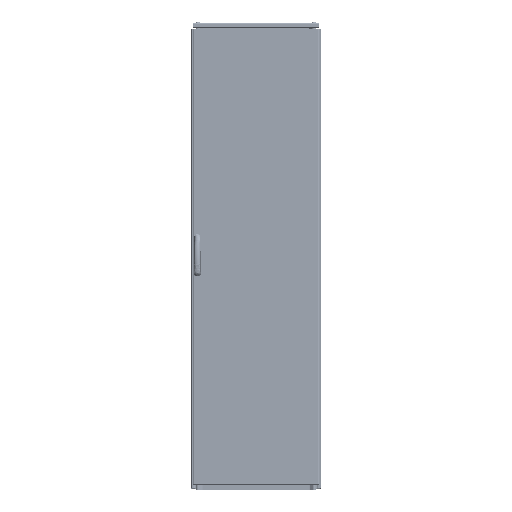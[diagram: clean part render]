
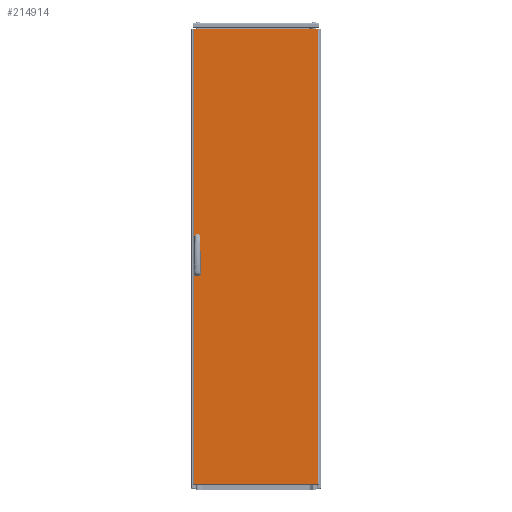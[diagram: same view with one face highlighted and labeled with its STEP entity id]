
A CAD part, top view. The second image highlights one B-rep face of the part: STEP entity #214914.
In plain terms, the highlighted planar face has unit normal (0, 0, 1).
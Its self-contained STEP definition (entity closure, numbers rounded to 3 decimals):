
#365 = ORIENTED_EDGE ( 'NONE', *, *, #89787, .T. ) ;
#1700 = CARTESIAN_POINT ( 'NONE',  ( 3., 3., 19. ) ) ;
#8218 = AXIS2_PLACEMENT_3D ( 'NONE', #67641, #258787, #185382 ) ;
#10981 = EDGE_CURVE ( 'NONE', #352394, #269415, #118892, .T. ) ;
#19286 = VERTEX_POINT ( 'NONE', #91685 ) ;
#19993 = CIRCLE ( 'NONE', #145471, 9.5 ) ;
#22543 = CARTESIAN_POINT ( 'NONE',  ( 3., 2157., 19. ) ) ;
#29707 = CARTESIAN_POINT ( 'NONE',  ( 0., 3., 19. ) ) ;
#32839 = DIRECTION ( 'NONE',  ( 0., 1., 0. ) ) ;
#33210 = CIRCLE ( 'NONE', #135973, 9.5 ) ;
#34239 = CARTESIAN_POINT ( 'NONE',  ( 9.7, 1160.25, 19. ) ) ;
#38385 = EDGE_CURVE ( 'NONE', #108089, #140032, #201052, .T. ) ;
#41186 = DIRECTION ( 'NONE',  ( 1., 0., 0. ) ) ;
#43692 = ORIENTED_EDGE ( 'NONE', *, *, #38385, .F. ) ;
#43928 = VECTOR ( 'NONE', #101308, 1000. ) ;
#44251 = LINE ( 'NONE', #347725, #43928 ) ;
#49278 = EDGE_CURVE ( 'NONE', #172507, #323257, #127890, .T. ) ;
#50386 = LINE ( 'NONE', #248556, #297493 ) ;
#53246 = DIRECTION ( 'NONE',  ( 1., 0., 0. ) ) ;
#56466 = VERTEX_POINT ( 'NONE', #34239 ) ;
#60068 = LINE ( 'NONE', #29707, #120788 ) ;
#67407 = VECTOR ( 'NONE', #345724, 1000. ) ;
#67641 = CARTESIAN_POINT ( 'NONE',  ( 19.2, 1047.75, 19. ) ) ;
#68252 = DIRECTION ( 'NONE',  ( -1., 0., 0. ) ) ;
#68272 = CARTESIAN_POINT ( 'NONE',  ( 28.7, 1112.25, 19. ) ) ;
#72344 = DIRECTION ( 'NONE',  ( 0., 1., 0. ) ) ;
#75998 = CARTESIAN_POINT ( 'NONE',  ( 9.7, 1047.75, 19. ) ) ;
#76823 = EDGE_CURVE ( 'NONE', #321422, #56466, #33210, .T. ) ;
#78999 = EDGE_CURVE ( 'NONE', #323257, #290003, #19993, .T. ) ;
#80015 = DIRECTION ( 'NONE',  ( 0., 0., 1. ) ) ;
#89787 = EDGE_CURVE ( 'NONE', #269415, #347809, #352889, .T. ) ;
#91487 = FACE_BOUND ( 'NONE', #119726, .T. ) ;
#91685 = CARTESIAN_POINT ( 'NONE',  ( 28.7, 1047.75, 19. ) ) ;
#93783 = EDGE_CURVE ( 'NONE', #140032, #321422, #152096, .T. ) ;
#95018 = FACE_OUTER_BOUND ( 'NONE', #127587, .T. ) ;
#100350 = ORIENTED_EDGE ( 'NONE', *, *, #162115, .F. ) ;
#101308 = DIRECTION ( 'NONE',  ( 0., -1., 0. ) ) ;
#108089 = VERTEX_POINT ( 'NONE', #226797 ) ;
#118892 = LINE ( 'NONE', #263484, #166685 ) ;
#119726 = EDGE_LOOP ( 'NONE', ( #281313, #127369, #100350, #348039 ) ) ;
#120788 = VECTOR ( 'NONE', #252962, 1000. ) ;
#124794 = VECTOR ( 'NONE', #220786, 1000. ) ;
#127369 = ORIENTED_EDGE ( 'NONE', *, *, #219285, .F. ) ;
#127587 = EDGE_LOOP ( 'NONE', ( #175483, #365, #197283, #328282 ) ) ;
#127890 = LINE ( 'NONE', #75998, #67407 ) ;
#130632 = EDGE_CURVE ( 'NONE', #56466, #108089, #50386, .T. ) ;
#135973 = AXIS2_PLACEMENT_3D ( 'NONE', #151968, #228825, #41186 ) ;
#138302 = VECTOR ( 'NONE', #291281, 1000. ) ;
#140032 = VERTEX_POINT ( 'NONE', #68272 ) ;
#145471 = AXIS2_PLACEMENT_3D ( 'NONE', #219404, #80015, #53246 ) ;
#151968 = CARTESIAN_POINT ( 'NONE',  ( 19.2, 1160.25, 19. ) ) ;
#152096 = LINE ( 'NONE', #287827, #138302 ) ;
#161190 = EDGE_CURVE ( 'NONE', #347809, #325843, #44251, .T. ) ;
#162115 = EDGE_CURVE ( 'NONE', #290003, #19286, #229312, .T. ) ;
#166685 = VECTOR ( 'NONE', #72344, 1000. ) ;
#170593 = EDGE_CURVE ( 'NONE', #325843, #352394, #60068, .T. ) ;
#172507 = VERTEX_POINT ( 'NONE', #253985 ) ;
#175483 = ORIENTED_EDGE ( 'NONE', *, *, #10981, .T. ) ;
#179580 = DIRECTION ( 'NONE',  ( 0., 0., 1. ) ) ;
#185139 = CARTESIAN_POINT ( 'NONE',  ( 592., 2157., 19. ) ) ;
#185382 = DIRECTION ( 'NONE',  ( 1., 0., 0. ) ) ;
#189717 = ORIENTED_EDGE ( 'NONE', *, *, #76823, .F. ) ;
#192549 = VECTOR ( 'NONE', #32839, 1000. ) ;
#197283 = ORIENTED_EDGE ( 'NONE', *, *, #161190, .T. ) ;
#199249 = CARTESIAN_POINT ( 'NONE',  ( 28.7, 999.75, 19. ) ) ;
#201052 = CIRCLE ( 'NONE', #246599, 9.5 ) ;
#202041 = CIRCLE ( 'NONE', #8218, 9.5 ) ;
#204066 = PLANE ( 'NONE',  #243727 ) ;
#214914 = ADVANCED_FACE ( 'NONE', ( #91487, #339729, #95018 ), #204066, .F. ) ;
#218262 = DIRECTION ( 'NONE',  ( 0., -1., 0. ) ) ;
#219285 = EDGE_CURVE ( 'NONE', #19286, #172507, #202041, .T. ) ;
#219404 = CARTESIAN_POINT ( 'NONE',  ( 19.2, 999.75, 19. ) ) ;
#220786 = DIRECTION ( 'NONE',  ( -1., 0., 0. ) ) ;
#221879 = CARTESIAN_POINT ( 'NONE',  ( 592., 3., 19. ) ) ;
#226797 = CARTESIAN_POINT ( 'NONE',  ( 9.7, 1112.25, 19. ) ) ;
#228825 = DIRECTION ( 'NONE',  ( 0., 0., 1. ) ) ;
#229312 = LINE ( 'NONE', #275810, #192549 ) ;
#231395 = DIRECTION ( 'NONE',  ( 1., 0., 0. ) ) ;
#236479 = CARTESIAN_POINT ( 'NONE',  ( 9.7, 999.75, 19. ) ) ;
#237245 = CARTESIAN_POINT ( 'NONE',  ( 28.7, 1160.25, 19. ) ) ;
#243727 = AXIS2_PLACEMENT_3D ( 'NONE', #341471, #312939, #68252 ) ;
#246599 = AXIS2_PLACEMENT_3D ( 'NONE', #261693, #179580, #231395 ) ;
#248556 = CARTESIAN_POINT ( 'NONE',  ( 9.7, 1160.25, 19. ) ) ;
#252962 = DIRECTION ( 'NONE',  ( 1., 0., 0. ) ) ;
#253985 = CARTESIAN_POINT ( 'NONE',  ( 9.7, 1047.75, 19. ) ) ;
#258787 = DIRECTION ( 'NONE',  ( 0., 0., 1. ) ) ;
#261693 = CARTESIAN_POINT ( 'NONE',  ( 19.2, 1112.25, 19. ) ) ;
#263484 = CARTESIAN_POINT ( 'NONE',  ( 592., 2160., 19. ) ) ;
#269415 = VERTEX_POINT ( 'NONE', #185139 ) ;
#271882 = ORIENTED_EDGE ( 'NONE', *, *, #93783, .F. ) ;
#275810 = CARTESIAN_POINT ( 'NONE',  ( 28.7, 1047.75, 19. ) ) ;
#281313 = ORIENTED_EDGE ( 'NONE', *, *, #49278, .F. ) ;
#287827 = CARTESIAN_POINT ( 'NONE',  ( 28.7, 1160.25, 19. ) ) ;
#290003 = VERTEX_POINT ( 'NONE', #199249 ) ;
#291281 = DIRECTION ( 'NONE',  ( 0., 1., 0. ) ) ;
#297493 = VECTOR ( 'NONE', #218262, 1000. ) ;
#300096 = ORIENTED_EDGE ( 'NONE', *, *, #130632, .F. ) ;
#312939 = DIRECTION ( 'NONE',  ( 0., 0., -1. ) ) ;
#321422 = VERTEX_POINT ( 'NONE', #237245 ) ;
#323257 = VERTEX_POINT ( 'NONE', #236479 ) ;
#324345 = CARTESIAN_POINT ( 'NONE',  ( 0., 2157., 19. ) ) ;
#325843 = VERTEX_POINT ( 'NONE', #1700 ) ;
#328282 = ORIENTED_EDGE ( 'NONE', *, *, #170593, .T. ) ;
#339729 = FACE_BOUND ( 'NONE', #352797, .T. ) ;
#341471 = CARTESIAN_POINT ( 'NONE',  ( 0., 2160., 19. ) ) ;
#345724 = DIRECTION ( 'NONE',  ( 0., -1., 0. ) ) ;
#347725 = CARTESIAN_POINT ( 'NONE',  ( 3., 2160., 19. ) ) ;
#347809 = VERTEX_POINT ( 'NONE', #22543 ) ;
#348039 = ORIENTED_EDGE ( 'NONE', *, *, #78999, .F. ) ;
#352394 = VERTEX_POINT ( 'NONE', #221879 ) ;
#352797 = EDGE_LOOP ( 'NONE', ( #300096, #189717, #271882, #43692 ) ) ;
#352889 = LINE ( 'NONE', #324345, #124794 ) ;
